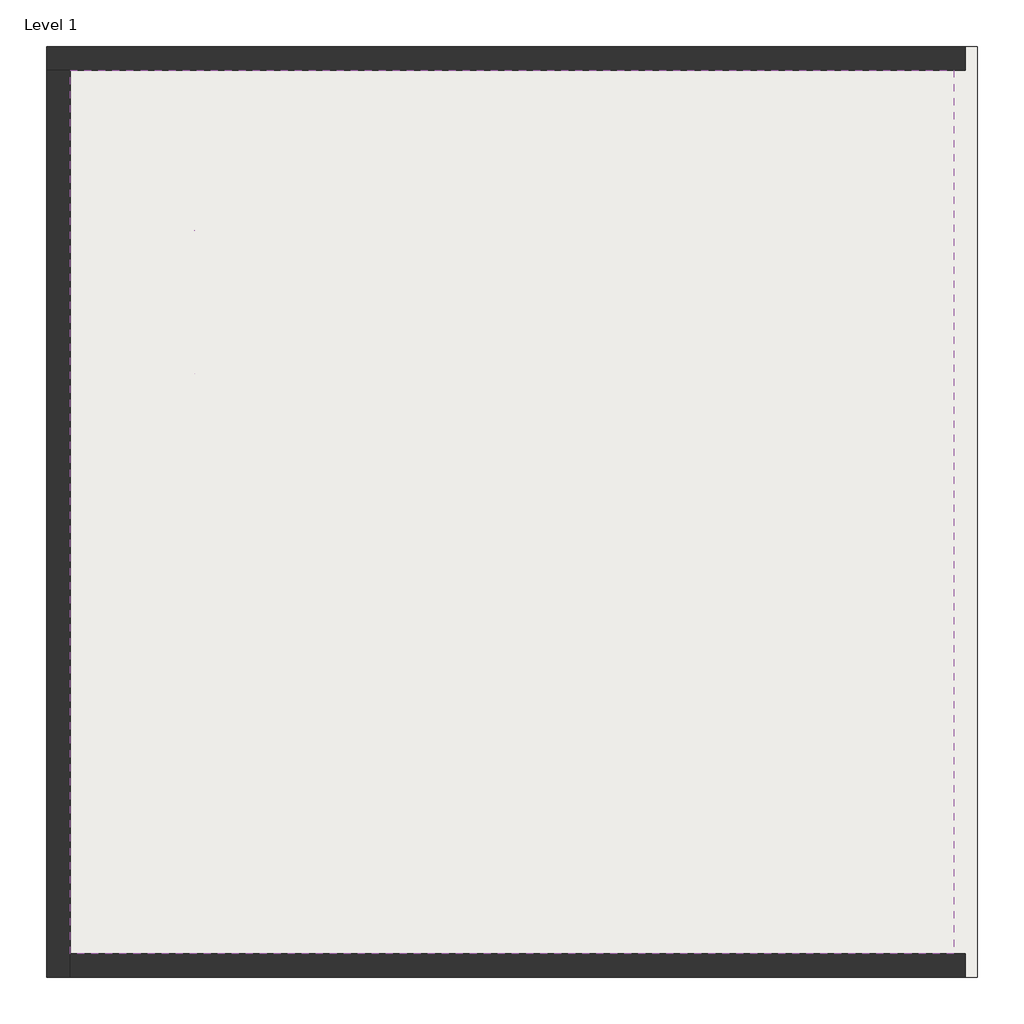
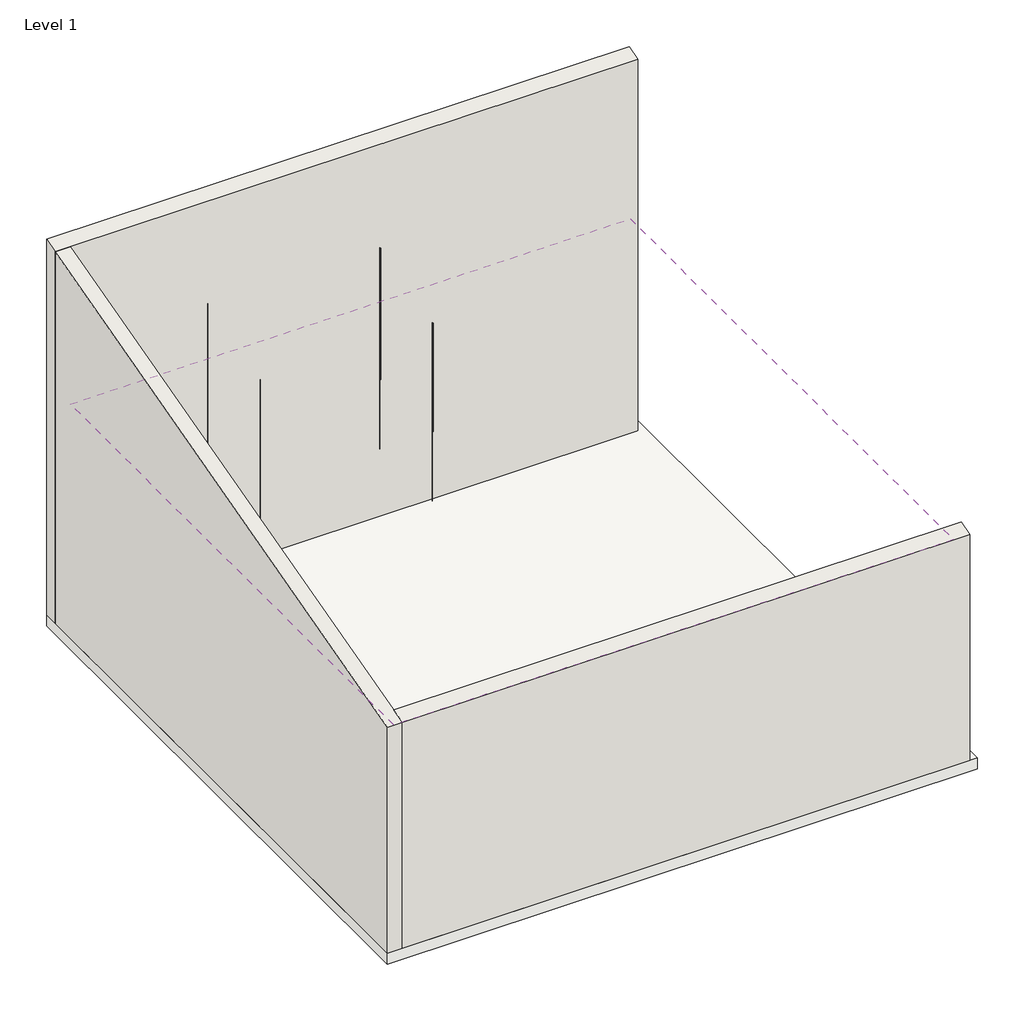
# One storey: 3 walls, 2 proxies, 1 covering, 1 slab.
"""IFC4 building model written with IfcOpenShell, lengths in millimetres."""

from ifc_helpers import new_model, si_unit, frame, origin, place, context, project, spatial, polyline, outline, extrude, faceted_brep, transform, mapped, element, save
from components import generic_models_1_generic_models_1_06576977, generic_models_2_generic_models_1_bb24c18d

model = new_model("IFC4")

# Units and contexts
model_context = context("Model", 3, world=origin())
ifc_project = project(units=[si_unit("LENGTHUNIT", "METRE", prefix="MILLI")], contexts=[model_context])

# Site, building, storey
site = spatial("IfcSite", under=ifc_project)
building = spatial("IfcBuilding", under=site)
storey = spatial("IfcBuildingStorey", under=building, Name="Level 1", Elevation=0.0)

# Proxies
placement = place(None, origin())
generic_models_1_generic_models_1_shape = generic_models_1_generic_models_1_06576977(model_context)
element("IfcBuildingElementProxy", 1, Name="Generic Models 1 : Generic Models 1", ObjectType="Generic Models 1 : Generic Models 1", at=placement, inside=storey, context=model_context, shape_type="MappedRepresentation", body=[
    mapped(generic_models_1_generic_models_1_shape, transform((0.0, 0.0, 0.0), x_axis=(1.0, 0.0, 0.0), y_axis=(0.0, 1.0, 0.0), z_axis=(0.0, 0.0, 1.0))),
])
generic_models_2_generic_models_1_shape = generic_models_2_generic_models_1_bb24c18d(model_context)
element("IfcBuildingElementProxy", 2, Name="Generic Models 2 : Generic Models 1", ObjectType="Generic Models 2 : Generic Models 1", at=placement, inside=storey, context=model_context, shape_type="MappedRepresentation", body=[
    mapped(generic_models_2_generic_models_1_shape, transform((0.0, 1200.0, 0.0), x_axis=(1.0, 0.0, 0.0), y_axis=(0.0, 1.0, 0.0), z_axis=(0.0, 0.0, 1.0))),
])

# Covering
element("IfcCovering", 3, ObjectType="Plain", at=placement, inside=storey, context=model_context, shape_type="SweptSolid", body=[
    extrude(outline(polyline([(-2097.6215702, 4352.0458346), (5302.3784298, 4352.0458346), (5302.3784298, -3047.9541654), (-2097.6215702, -3047.9541654), (-2097.6215702, 4352.0458346)])), frame((0.0, 0.0, 3000.0), z_axis=(0.0, 0.0, 1.0), x_axis=(1.0, 0.0, 0.0)), (0.0, 0.0, 1.0), 57.0),
])

# Slab
element("IfcSlab", 4, ObjectType="Generic 150mm", at=placement, inside=storey, context=model_context, shape_type="SweptSolid", body=[
    extrude(outline(polyline([(-2297.6215702, 4552.0458346), (5502.3784298, 4552.0458346), (5502.3784298, -3247.9541654), (-2297.6215702, -3247.9541654), (-2297.6215702, 4552.0458346)])), frame((0.0, 0.0, -150.0), z_axis=(0.0, 0.0, 1.0), x_axis=(1.0, 0.0, 0.0)), (0.0, 0.0, 1.0), 150.0),
])

# Walls
element("IfcWall", 5, ObjectType="Generic - 200mm", at=placement, inside=storey, context=model_context, shape_type="Brep", body=[
    faceted_brep([(-2297.6215702, 4352.0458346, 0.0), (-2097.6215702, 4352.0458346, 0.0), (5402.3784298, 4352.0458346, 0.0), (5402.3784298, 4352.0458346, 5197.1833779), (-2097.6215702, 4352.0458346, 5197.1833779), (-2297.6215702, 4352.0458346, 5197.1833779), (-2297.6215702, 4552.0458346, 0.0), (-2297.6215702, 4552.0458346, 5250.7732164), (5402.3784298, 4552.0458346, 5250.7732164), (5402.3784298, 4552.0458346, 0.0)], [[[0, 1, 2, 3, 4, 5]], [[6, 7, 8, 9]], [[2, 1, 0, 6, 9]], [[3, 2, 9, 8]], [[0, 5, 7, 6]], [[5, 4, 3, 8, 7]]]),
])
element("IfcWall", 6, ObjectType="Generic - 200mm", at=placement, inside=storey, context=model_context, shape_type="Brep", body=[
    faceted_brep([(-2097.6215702, -3247.9541654, 0.0), (-2097.6215702, -3047.9541654, 0.0), (-2097.6215702, 4352.0458346, 0.0), (-2097.6215702, 4352.0458346, 5197.1833779), (-2097.6215702, -3047.9541654, 3214.3593539), (-2097.6215702, -3247.9541654, 3160.7695155), (-2297.6215702, -3247.9541654, 0.0), (-2297.6215702, -3247.9541654, 3160.7695155), (-2297.6215702, 4352.0458346, 5197.1833779), (-2297.6215702, 4352.0458346, 0.0)], [[[0, 1, 2, 3, 4, 5]], [[6, 7, 8, 9]], [[2, 1, 0, 6, 9]], [[3, 2, 9, 8]], [[0, 5, 7, 6]], [[5, 4, 3, 8, 7]]]),
])
element("IfcWall", 7, ObjectType="Generic - 200mm", at=placement, inside=storey, context=model_context, shape_type="SweptSolid", body=[
    extrude(outline(polyline([(-3247.9541654, 0.0), (-3247.9541654, 3160.7695155), (-3047.9541654, 3214.3593539), (-3047.9541654, 0.0), (-3247.9541654, 0.0)])), frame((-2097.6215702, 0.0, 0.0), z_axis=(1.0, 0.0, 0.0), x_axis=(0.0, 1.0, 0.0)), (0.0, 0.0, 1.0), 7500.0),
])

save(model, "model.ifc")
